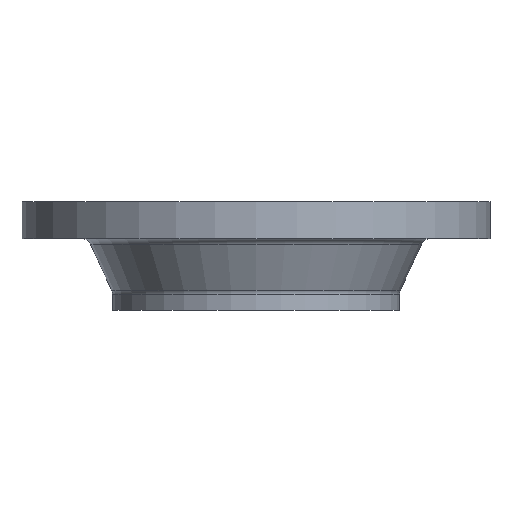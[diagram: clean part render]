
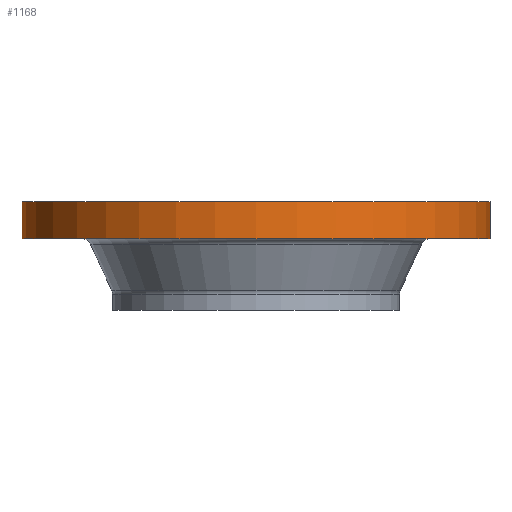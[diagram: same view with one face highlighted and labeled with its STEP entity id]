
A CAD part, front view. The second image highlights one B-rep face of the part: STEP entity #1168.
In plain terms, the highlighted cylindrical face has radius 290 mm (diameter 580 mm), a partial arc.
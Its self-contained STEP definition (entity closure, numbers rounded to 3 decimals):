
#26 = AXIS2_PLACEMENT_3D ( 'NONE', #446, #445, #442 ) ;
#187 = CARTESIAN_POINT ( 'NONE',  ( -290., 0., 0. ) ) ;
#215 = CARTESIAN_POINT ( 'NONE',  ( 290., 0., 0. ) ) ;
#240 = CARTESIAN_POINT ( 'NONE',  ( 290., 0., -46. ) ) ;
#243 = CARTESIAN_POINT ( 'NONE',  ( -290., 0., -46. ) ) ;
#276 = VECTOR ( 'NONE', #831, 1000. ) ;
#278 = CIRCLE ( 'NONE', #1158, 290. ) ;
#308 = DIRECTION ( 'NONE',  ( 1., 0., 0. ) ) ;
#310 = CARTESIAN_POINT ( 'NONE',  ( -290., 0., -135. ) ) ;
#312 = LINE ( 'NONE', #310, #1541 ) ;
#406 = EDGE_CURVE ( 'NONE', #1413, #1431, #833, .T. ) ;
#442 = DIRECTION ( 'NONE',  ( 1., 0., 0. ) ) ;
#445 = DIRECTION ( 'NONE',  ( 0., 0., 1. ) ) ;
#446 = CARTESIAN_POINT ( 'NONE',  ( 0., 0., 0. ) ) ;
#506 = DIRECTION ( 'NONE',  ( 1., 0., 0. ) ) ;
#507 = DIRECTION ( 'NONE',  ( 0., 0., 1. ) ) ;
#508 = CARTESIAN_POINT ( 'NONE',  ( 0., 0., -135. ) ) ;
#509 = CYLINDRICAL_SURFACE ( 'NONE', #1180, 290. ) ;
#510 = FACE_OUTER_BOUND ( 'NONE', #1203, .T. ) ;
#827 = CIRCLE ( 'NONE', #26, 290. ) ;
#831 = DIRECTION ( 'NONE',  ( 0., 0., 1. ) ) ;
#832 = CARTESIAN_POINT ( 'NONE',  ( 290., 0., -135. ) ) ;
#833 = LINE ( 'NONE', #832, #276 ) ;
#884 = DIRECTION ( 'NONE',  ( 0., 0., 1. ) ) ;
#885 = CARTESIAN_POINT ( 'NONE',  ( 0., 0., -46. ) ) ;
#886 = DIRECTION ( 'NONE',  ( 0., 0., 1. ) ) ;
#1158 = AXIS2_PLACEMENT_3D ( 'NONE', #885, #884, #308 ) ;
#1168 = ADVANCED_FACE ( 'NONE', ( #510 ), #509, .T. ) ;
#1180 = AXIS2_PLACEMENT_3D ( 'NONE', #508, #507, #506 ) ;
#1203 = EDGE_LOOP ( 'NONE', ( #1278, #1279, #1280, #1281 ) ) ;
#1247 = EDGE_CURVE ( 'NONE', #1461, #1431, #827, .T. ) ;
#1278 = ORIENTED_EDGE ( 'NONE', *, *, #1374, .F. ) ;
#1279 = ORIENTED_EDGE ( 'NONE', *, *, #1375, .T. ) ;
#1280 = ORIENTED_EDGE ( 'NONE', *, *, #406, .T. ) ;
#1281 = ORIENTED_EDGE ( 'NONE', *, *, #1247, .F. ) ;
#1374 = EDGE_CURVE ( 'NONE', #1406, #1461, #312, .T. ) ;
#1375 = EDGE_CURVE ( 'NONE', #1406, #1413, #278, .T. ) ;
#1406 = VERTEX_POINT ( 'NONE', #243 ) ;
#1413 = VERTEX_POINT ( 'NONE', #240 ) ;
#1431 = VERTEX_POINT ( 'NONE', #215 ) ;
#1461 = VERTEX_POINT ( 'NONE', #187 ) ;
#1541 = VECTOR ( 'NONE', #886, 1000. ) ;
